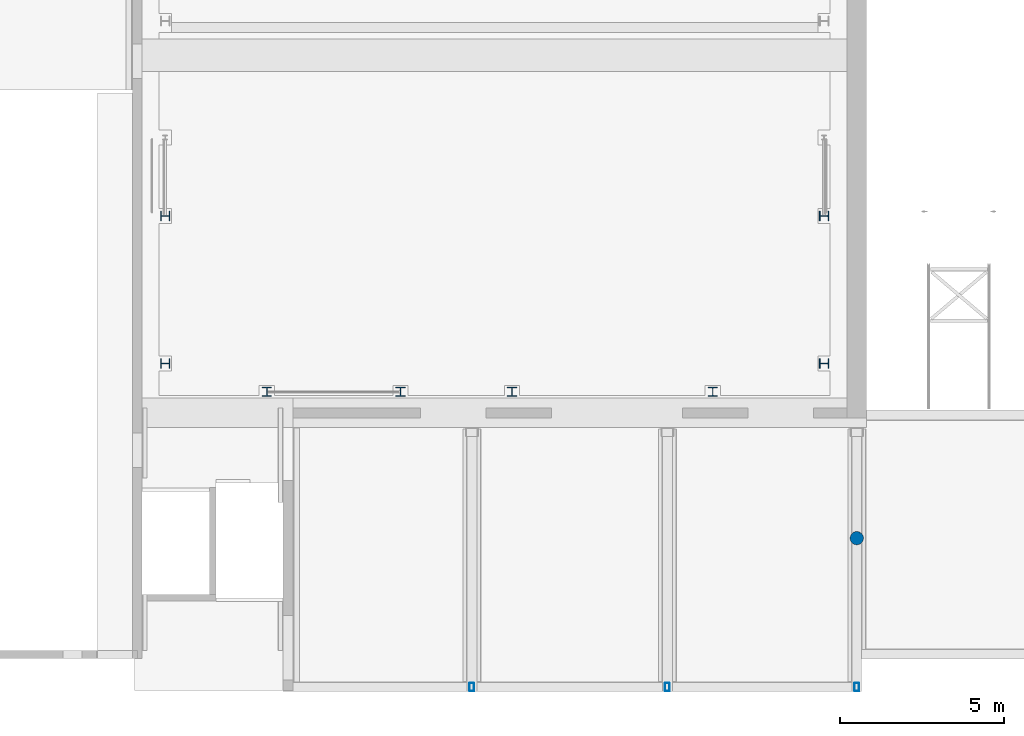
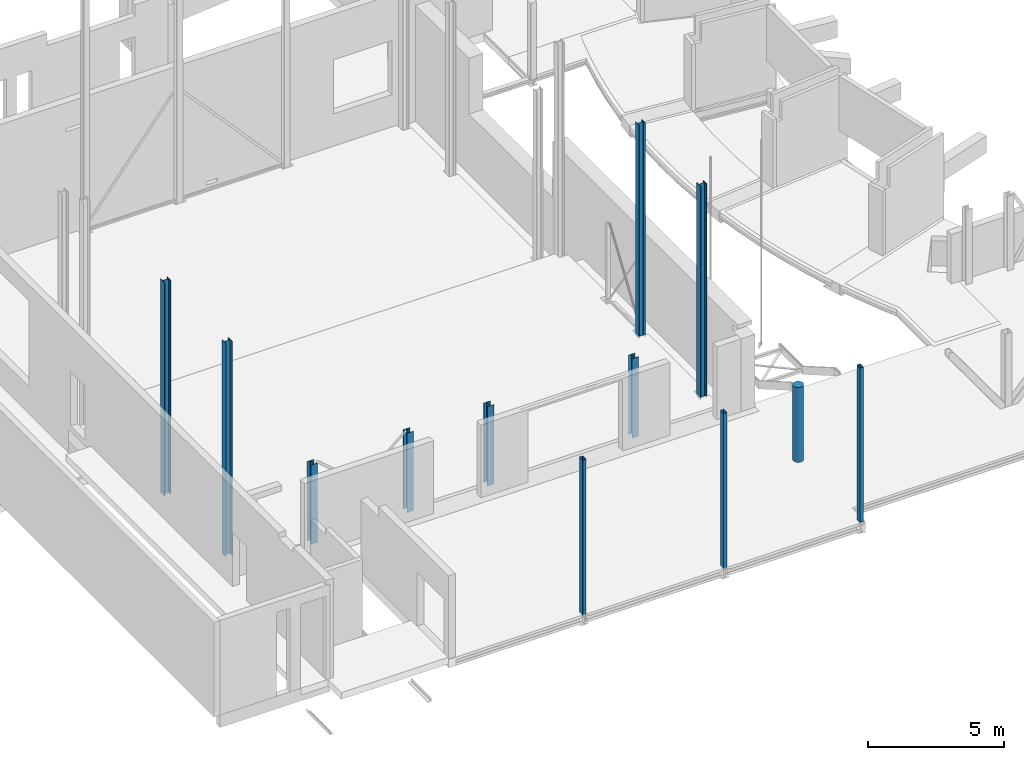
# One storey, part 1 of 37: 12 columns.
"""IFC2X3 building model written with IfcOpenShell, lengths in millimetres."""

from ifc_helpers import new_model, entity, si_unit, converted_unit, derived_unit, direction, frame, frame_2d, origin, place, context, subcontext, project, spatial, polyline, circle_curve, parameter, trimmed, segment, composite_curve, circle, hollow_circle, outline, extrude, source, transform, mapped, material, material_list, type_object, type_shapes, element, save


model = new_model("IFC2X3")

# Units and contexts
model_context = context("Model", 3, precision=0.01, world=origin(), true_north=direction((6.12303176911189e-17, 1.0)))
body_context = subcontext(model_context, "Body", "Model", "MODEL_VIEW")
ifc_project = project(units=[si_unit("LENGTHUNIT", "METRE", prefix="MILLI"), si_unit("AREAUNIT", "SQUARE_METRE", prefix="MILLI"), si_unit("VOLUMEUNIT", "CUBIC_METRE"), converted_unit("PLANEANGLEUNIT", "DEGREE", entity("IfcRatioMeasure", 0.0174532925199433), si_unit("PLANEANGLEUNIT", "RADIAN"), dimensions=[0, 0, 0, 0, 0, 0, 0]), si_unit("MASSUNIT", "GRAM", prefix="KILO"), derived_unit("MASSDENSITYUNIT", [(si_unit("MASSUNIT", "GRAM", prefix="KILO"), 1), (si_unit("LENGTHUNIT", "METRE"), -3)]), derived_unit("MOMENTOFINERTIAUNIT", [(si_unit("LENGTHUNIT", "METRE"), 4)]), si_unit("TIMEUNIT", "SECOND"), si_unit("FREQUENCYUNIT", "HERTZ"), si_unit("THERMODYNAMICTEMPERATUREUNIT", "DEGREE_CELSIUS"), derived_unit("THERMALTRANSMITTANCEUNIT", [(si_unit("MASSUNIT", "GRAM", prefix="KILO"), 1), (si_unit("THERMODYNAMICTEMPERATUREUNIT", "KELVIN"), -1), (si_unit("TIMEUNIT", "SECOND"), -3)]), derived_unit("VOLUMETRICFLOWRATEUNIT", [(si_unit("LENGTHUNIT", "METRE"), 3), (si_unit("TIMEUNIT", "SECOND"), -1)]), si_unit("ELECTRICCURRENTUNIT", "AMPERE"), si_unit("ELECTRICVOLTAGEUNIT", "VOLT"), si_unit("POWERUNIT", "WATT"), si_unit("FORCEUNIT", "NEWTON", prefix="KILO"), si_unit("ILLUMINANCEUNIT", "LUX"), si_unit("LUMINOUSFLUXUNIT", "LUMEN"), si_unit("LUMINOUSINTENSITYUNIT", "CANDELA"), derived_unit("USERDEFINED", [(si_unit("MASSUNIT", "GRAM", prefix="KILO"), -1), (si_unit("LENGTHUNIT", "METRE"), -2), (si_unit("TIMEUNIT", "SECOND"), 3), (si_unit("LUMINOUSFLUXUNIT", "LUMEN"), 1)]), derived_unit("LINEARVELOCITYUNIT", [(si_unit("LENGTHUNIT", "METRE"), 1), (si_unit("TIMEUNIT", "SECOND"), -1)]), si_unit("PRESSUREUNIT", "PASCAL"), derived_unit("USERDEFINED", [(si_unit("LENGTHUNIT", "METRE"), -2), (si_unit("MASSUNIT", "GRAM", prefix="KILO"), 1), (si_unit("TIMEUNIT", "SECOND"), -2)]), derived_unit("LINEARFORCEUNIT", [(si_unit("MASSUNIT", "GRAM", prefix="KILO"), 1), (si_unit("LENGTHUNIT", "METRE"), 1), (si_unit("TIMEUNIT", "SECOND"), -2), (si_unit("LENGTHUNIT", "METRE"), -1)]), derived_unit("PLANARFORCEUNIT", [(si_unit("MASSUNIT", "GRAM", prefix="KILO"), 1), (si_unit("LENGTHUNIT", "METRE"), 1), (si_unit("TIMEUNIT", "SECOND"), -2), (si_unit("LENGTHUNIT", "METRE"), -2)])], contexts=[model_context])

# Site, building, storey
site_placement = place(None, origin())
site = spatial("IfcSite", under=ifc_project, at=site_placement, Name="Theater aan de Parade", CompositionType="ELEMENT")
building_placement = place(site_placement, origin())
building = spatial("IfcBuilding", under=site, at=building_placement, Name="Theater aan de Parade", CompositionType="ELEMENT")
storey_placement = place(building_placement, frame((0.0, 0.0, 5020.0)))
storey = spatial("IfcBuildingStorey", under=building, at=storey_placement, Name="01 eerste verdieping", CompositionType="ELEMENT", Elevation=5020.0)

# Columns
ifc_material_1 = material(Name="00_PBT_MAT_staal_S355")
column_type_1 = type_object("IfcColumnType", Name="28_PBT_SC_staal_koker:S355_K250x150x10", PredefinedType="COLUMN", material=ifc_material_1)
shared_shape_1 = source(origin(), body_context, "Body", "SweptSolid", [
    extrude(outline(composite_curve([segment(trimmed(circle_curve(frame_2d((-60.0, -110.0), x_axis=(1.0, 0.0)), 15.0), [parameter(180.0)], [parameter(270.0)], True, "PARAMETER"), True, "CONTINUOUS"), segment(polyline([(-60.0, -125.0), (60.0, -125.0)]), True, "CONTINUOUS"), segment(trimmed(circle_curve(frame_2d((60.0, -110.0), x_axis=(1.0, 0.0)), 15.0), [parameter(270.0)], [parameter(0.0)], True, "PARAMETER"), True, "CONTINUOUS"), segment(polyline([(75.0, -110.0), (75.0, 110.0)]), True, "CONTINUOUS"), segment(trimmed(circle_curve(frame_2d((60.0, 110.0), x_axis=(1.0, 0.0)), 15.0), [parameter(3.56222124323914e-13)], [parameter(90.0000000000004)], True, "PARAMETER"), True, "CONTINUOUS"), segment(polyline([(60.0, 125.0), (-60.0, 125.0)]), True, "CONTINUOUS"), segment(trimmed(circle_curve(frame_2d((-60.0, 110.0), x_axis=(1.0, 0.0)), 15.0), [parameter(90.0)], [parameter(180.0)], True, "PARAMETER"), True, "CONTINUOUS"), segment(polyline([(-75.0, 110.0), (-75.0, -110.0)]), True, "CONTINUOUS")], self_intersect=False), holes=[composite_curve([segment(trimmed(circle_curve(frame_2d((55.0, 105.0), x_axis=(1.0, 0.0)), 10.0), [parameter(0.0)], [parameter(90.0000000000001)], True, "PARAMETER"), False, "CONTINUOUS"), segment(polyline([(65.0, 105.0), (65.0, -105.0)]), True, "CONTINUOUS"), segment(trimmed(circle_curve(frame_2d((55.0, -105.0), x_axis=(1.0, 0.0)), 10.0), [parameter(270.0)], [parameter(360.0)], True, "PARAMETER"), False, "CONTINUOUS"), segment(polyline([(55.0, -115.0), (-55.0, -115.0)]), True, "CONTINUOUS"), segment(trimmed(circle_curve(frame_2d((-55.0, -105.0), x_axis=(1.0, 0.0)), 10.0), [parameter(180.0)], [parameter(270.0)], True, "PARAMETER"), False, "CONTINUOUS"), segment(polyline([(-65.0, -105.0), (-65.0, 105.0)]), True, "CONTINUOUS"), segment(trimmed(circle_curve(frame_2d((-55.0, 105.0), x_axis=(1.0, 0.0)), 10.0), [parameter(89.9999999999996)], [parameter(180.0)], True, "PARAMETER"), False, "CONTINUOUS"), segment(polyline([(-55.0, 115.0), (55.0, 115.0)]), True, "CONTINUOUS")], self_intersect=False)]), frame((25410.0, 9197.0, 4895.0), z_axis=(0.0, 0.0, 1.0), x_axis=(-1.0, 0.0, 0.0)), (0.0, 0.0, 1.0), 6965.0),
])
type_shapes(column_type_1, [shared_shape_1])
column_1_placement = place(storey_placement, frame((0.0, 0.0, -5020.0)))
element("IfcColumn", 1, at=column_1_placement, inside=storey, type_object=column_type_1, material=ifc_material_1, Name="28_PBT_SC_staal_koker:S355_K250x150x10", ObjectType="28_PBT_SC_staal_koker:S355_K250x150x10", context=body_context, shape_type="MappedRepresentation", body=[
    mapped(shared_shape_1, transform((0.0, 0.0, 0.0), scale=1.0)),
])
column_type_2 = type_object("IfcColumnType", Name="28_PBT_SC_staal_koker:S355_K250x150x10", PredefinedType="COLUMN", material=ifc_material_1)
shared_shape_2 = source(origin(), body_context, "Body", "SweptSolid", [
    extrude(outline(composite_curve([segment(trimmed(circle_curve(frame_2d((-60.0, -110.0), x_axis=(1.0, 0.0)), 15.0), [parameter(180.0)], [parameter(270.0)], True, "PARAMETER"), True, "CONTINUOUS"), segment(polyline([(-60.0, -125.0), (60.0, -125.0)]), True, "CONTINUOUS"), segment(trimmed(circle_curve(frame_2d((60.0, -110.0), x_axis=(1.0, 0.0)), 15.0), [parameter(270.0)], [parameter(0.0)], True, "PARAMETER"), True, "CONTINUOUS"), segment(polyline([(75.0, -110.0), (75.0, 110.0)]), True, "CONTINUOUS"), segment(trimmed(circle_curve(frame_2d((60.0, 110.0), x_axis=(1.0, 0.0)), 15.0), [parameter(3.56222124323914e-13)], [parameter(90.0000000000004)], True, "PARAMETER"), True, "CONTINUOUS"), segment(polyline([(60.0, 125.0), (-60.0, 125.0)]), True, "CONTINUOUS"), segment(trimmed(circle_curve(frame_2d((-60.0, 110.0), x_axis=(1.0, 0.0)), 15.0), [parameter(90.0)], [parameter(180.0)], True, "PARAMETER"), True, "CONTINUOUS"), segment(polyline([(-75.0, 110.0), (-75.0, -110.0)]), True, "CONTINUOUS")], self_intersect=False), holes=[composite_curve([segment(trimmed(circle_curve(frame_2d((55.0, 105.0), x_axis=(1.0, 0.0)), 10.0), [parameter(0.0)], [parameter(90.0000000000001)], True, "PARAMETER"), False, "CONTINUOUS"), segment(polyline([(65.0, 105.0), (65.0, -105.0)]), True, "CONTINUOUS"), segment(trimmed(circle_curve(frame_2d((55.0, -105.0), x_axis=(1.0, 0.0)), 10.0), [parameter(270.0)], [parameter(360.0)], True, "PARAMETER"), False, "CONTINUOUS"), segment(polyline([(55.0, -115.0), (-55.0, -115.0)]), True, "CONTINUOUS"), segment(trimmed(circle_curve(frame_2d((-55.0, -105.0), x_axis=(1.0, 0.0)), 10.0), [parameter(180.0)], [parameter(270.0)], True, "PARAMETER"), False, "CONTINUOUS"), segment(polyline([(-65.0, -105.0), (-65.0, 105.0)]), True, "CONTINUOUS"), segment(trimmed(circle_curve(frame_2d((-55.0, 105.0), x_axis=(1.0, 0.0)), 10.0), [parameter(89.9999999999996)], [parameter(180.0)], True, "PARAMETER"), False, "CONTINUOUS"), segment(polyline([(-55.0, 115.0), (55.0, 115.0)]), True, "CONTINUOUS")], self_intersect=False)]), frame((31375.0, 9197.0, 4895.0), z_axis=(0.0, 0.0, 1.0), x_axis=(-1.0, 0.0, 0.0)), (0.0, 0.0, 1.0), 6965.0),
])
type_shapes(column_type_2, [shared_shape_2])
column_2_placement = place(storey_placement, frame((0.0, 0.0, -5020.0)))
element("IfcColumn", 2, at=column_2_placement, inside=storey, type_object=column_type_2, material=ifc_material_1, Name="28_PBT_SC_staal_koker:S355_K250x150x10", ObjectType="28_PBT_SC_staal_koker:S355_K250x150x10", context=body_context, shape_type="MappedRepresentation", body=[
    mapped(shared_shape_2, transform((0.0, 0.0, 0.0), scale=1.0)),
])
column_type_3 = type_object("IfcColumnType", Name="28_PBT_SC_staal_koker:S355_K250x150x10", PredefinedType="COLUMN", material=ifc_material_1)
shared_shape_3 = source(origin(), body_context, "Body", "SweptSolid", [
    extrude(outline(composite_curve([segment(trimmed(circle_curve(frame_2d((-60.0, -110.0), x_axis=(1.0, 0.0)), 15.0), [parameter(180.0)], [parameter(270.0)], True, "PARAMETER"), True, "CONTINUOUS"), segment(polyline([(-60.0, -125.0), (60.0, -125.0)]), True, "CONTINUOUS"), segment(trimmed(circle_curve(frame_2d((60.0, -110.0), x_axis=(1.0, 0.0)), 15.0), [parameter(270.0)], [parameter(0.0)], True, "PARAMETER"), True, "CONTINUOUS"), segment(polyline([(75.0, -110.0), (75.0, 110.0)]), True, "CONTINUOUS"), segment(trimmed(circle_curve(frame_2d((60.0, 110.0), x_axis=(1.0, 0.0)), 15.0), [parameter(3.56222124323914e-13)], [parameter(90.0000000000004)], True, "PARAMETER"), True, "CONTINUOUS"), segment(polyline([(60.0, 125.0), (-60.0, 125.0)]), True, "CONTINUOUS"), segment(trimmed(circle_curve(frame_2d((-60.0, 110.0), x_axis=(1.0, 0.0)), 15.0), [parameter(90.0)], [parameter(180.0)], True, "PARAMETER"), True, "CONTINUOUS"), segment(polyline([(-75.0, 110.0), (-75.0, -110.0)]), True, "CONTINUOUS")], self_intersect=False), holes=[composite_curve([segment(trimmed(circle_curve(frame_2d((55.0, 105.0), x_axis=(1.0, 0.0)), 10.0), [parameter(0.0)], [parameter(90.0000000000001)], True, "PARAMETER"), False, "CONTINUOUS"), segment(polyline([(65.0, 105.0), (65.0, -105.0)]), True, "CONTINUOUS"), segment(trimmed(circle_curve(frame_2d((55.0, -105.0), x_axis=(1.0, 0.0)), 10.0), [parameter(270.0)], [parameter(360.0)], True, "PARAMETER"), False, "CONTINUOUS"), segment(polyline([(55.0, -115.0), (-55.0, -115.0)]), True, "CONTINUOUS"), segment(trimmed(circle_curve(frame_2d((-55.0, -105.0), x_axis=(1.0, 0.0)), 10.0), [parameter(180.0)], [parameter(270.0)], True, "PARAMETER"), False, "CONTINUOUS"), segment(polyline([(-65.0, -105.0), (-65.0, 105.0)]), True, "CONTINUOUS"), segment(trimmed(circle_curve(frame_2d((-55.0, 105.0), x_axis=(1.0, 0.0)), 10.0), [parameter(89.9999999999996)], [parameter(180.0)], True, "PARAMETER"), False, "CONTINUOUS"), segment(polyline([(-55.0, 115.0), (55.0, 115.0)]), True, "CONTINUOUS")], self_intersect=False)]), frame((37153.8581300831, 9197.0, 4960.0), z_axis=(0.0, 0.0, 1.0), x_axis=(-1.0, 0.0, 0.0)), (0.0, 0.0, 1.0), 6915.0),
])
type_shapes(column_type_3, [shared_shape_3])
column_3_placement = place(storey_placement, frame((0.0, 0.0, -5020.0)))
element("IfcColumn", 3, at=column_3_placement, inside=storey, type_object=column_type_3, material=ifc_material_1, Name="28_PBT_SC_staal_koker:S355_K250x150x10", ObjectType="28_PBT_SC_staal_koker:S355_K250x150x10", context=body_context, shape_type="MappedRepresentation", body=[
    mapped(shared_shape_3, transform((0.0, 0.0, 0.0), scale=1.0)),
])
ifc_material_2 = material(Name="00_PBT_MAT_beton t.p.g._C40/50")
ifc_material_list_1 = material_list([ifc_material_1, ifc_material_2])
ifc_material_list_2 = material_list([ifc_material_1, ifc_material_2])
column_type_4 = type_object("IfcColumnType", Name="28_PBT_SC_staal_buis:S355_B406.4x20_GB_C40/50", PredefinedType="COLUMN", material=ifc_material_list_2)
shared_shape_4 = source(origin(), body_context, "Body", "SweptSolid", [
    extrude(hollow_circle(Radius=203.2, WallThickness=20.0, at=frame_2d((1.77837538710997e-15, -3.28302470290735e-13), x_axis=(1.0, 0.0))), frame((0.0, 0.0, 4925.0), z_axis=(0.0, 0.0, 1.0), x_axis=(-1.0, 0.0, 0.0)), (0.0, 0.0, 1.0), 3365.0),
    extrude(circle(Radius=183.2, at=frame_2d((-6.17986865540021e-15, 1.51632491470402e-12), x_axis=(1.0, 0.0))), frame((0.0, 0.0, 4925.0)), (0.0, 0.0, 1.0), 3365.0),
])
type_shapes(column_type_4, [shared_shape_4])
column_4_placement = place(storey_placement, frame((37153.8581300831, 13740.3177017, -5020.0)))
element("IfcColumn", 4, at=column_4_placement, inside=storey, type_object=column_type_4, material=ifc_material_list_1, Name="28_PBT_SC_staal_buis:S355_B406.4x20_GB_C40/50", ObjectType="28_PBT_SC_staal_buis:S355_B406.4x20_GB_C40/50", context=body_context, shape_type="MappedRepresentation", body=[
    mapped(shared_shape_4, transform((0.0, 0.0, 0.0), scale=1.0)),
])
column_type_5 = type_object("IfcColumnType", Name="28_PBT_SC_staal_H-profiel:S355_HE280B", PredefinedType="COLUMN", material=ifc_material_1)
shared_shape_5 = source(origin(), body_context, "Body", "SweptSolid", [
    extrude(outline(composite_curve([segment(polyline([(122.0, -140.0), (140.0, -140.0)]), True, "CONTINUOUS"), segment(polyline([(140.0, -140.0), (140.0, 140.0)]), True, "CONTINUOUS"), segment(polyline([(140.0, 140.0), (122.0, 140.0)]), True, "CONTINUOUS"), segment(polyline([(122.0, 140.0), (122.0, 29.25)]), True, "CONTINUOUS"), segment(trimmed(circle_curve(frame_2d((98.0, 29.25), x_axis=(1.0, 0.0)), 23.9999999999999), [parameter(269.999999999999)], [parameter(0.0)], True, "PARAMETER"), False, "CONTINUOUS"), segment(polyline([(98.0, 5.25000000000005), (-98.0, 5.25)]), True, "CONTINUOUS"), segment(trimmed(circle_curve(frame_2d((-98.0, 29.25), x_axis=(0.0, -1.0)), 24.0), [parameter(270.0)], [parameter(0.0)], True, "PARAMETER"), False, "CONTINUOUS"), segment(polyline([(-122.0, 29.2499999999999), (-122.0, 140.0)]), True, "CONTINUOUS"), segment(polyline([(-122.0, 140.0), (-140.0, 140.0)]), True, "CONTINUOUS"), segment(polyline([(-140.0, 140.0), (-140.0, -140.0)]), True, "CONTINUOUS"), segment(polyline([(-140.0, -140.0), (-122.0, -140.0)]), True, "CONTINUOUS"), segment(polyline([(-122.0, -140.0), (-122.0, -29.2500000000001)]), True, "CONTINUOUS"), segment(trimmed(circle_curve(frame_2d((-98.0, -29.25), x_axis=(-1.0, 0.0)), 24.0), [parameter(270.0)], [parameter(0.0)], True, "PARAMETER"), False, "CONTINUOUS"), segment(polyline([(-98.0, -5.25), (98.0, -5.24999999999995)]), True, "CONTINUOUS"), segment(trimmed(circle_curve(frame_2d((98.0, -29.2499999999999), x_axis=(0.0, 1.0)), 23.9999999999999), [parameter(270.0)], [parameter(0.0)], True, "PARAMETER"), False, "CONTINUOUS"), segment(polyline([(122.0, -29.25), (122.0, -140.0)]), True, "CONTINUOUS")], self_intersect=False)), frame((0.0, 0.0, 4845.0), z_axis=(0.0, 0.0, 1.0), x_axis=(0.0, -1.0, 0.0)), (0.0, 0.0, 1.0), 9565.0),
])
type_shapes(column_type_5, [shared_shape_5])
for number, where, z_axis, x_axis in (
    (5, (16053.8570032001, 23568.2922985, -5020.0), (0.0, 0.0, 1.0), (0.0, 1.0, 0.0)),
    (6, (36153.8581300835, 23568.2922984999, -5020.0), (0.0, 0.0, 1.0), (0.0, 1.0, 0.0)),
    (7, (16053.8570032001, 19068.2922985, -5020.0), (0.0, 0.0, 1.0), (0.0, 1.0, 0.0)),
    (8, (36153.8581300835, 19068.2922984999, -5020.0), (0.0, 0.0, 1.0), (0.0, 1.0, 0.0)),
):
    element("IfcColumn", number, at=place(storey_placement, frame(where, z_axis=z_axis, x_axis=x_axis)), inside=storey, type_object=column_type_5, material=ifc_material_1, Name="28_PBT_SC_staal_H-profiel:S355_HE280B", ObjectType="28_PBT_SC_staal_H-profiel:S355_HE280B", context=body_context, shape_type="MappedRepresentation", body=[
        mapped(shared_shape_5, transform((0.0, 0.0, 0.0), scale=1.0)),
    ])
column_type_6 = type_object("IfcColumnType", Name="28_PBT_SC_staal_H-profiel:S355_HE280B", PredefinedType="COLUMN", material=ifc_material_1)
shared_shape_6 = source(origin(), body_context, "Body", "SweptSolid", [
    extrude(outline(composite_curve([segment(polyline([(122.0, -140.0), (140.0, -140.0)]), True, "CONTINUOUS"), segment(polyline([(140.0, -140.0), (140.0, 140.0)]), True, "CONTINUOUS"), segment(polyline([(140.0, 140.0), (122.0, 140.0)]), True, "CONTINUOUS"), segment(polyline([(122.0, 140.0), (122.0, 29.25)]), True, "CONTINUOUS"), segment(trimmed(circle_curve(frame_2d((98.0, 29.25), x_axis=(1.0, 0.0)), 23.9999999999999), [parameter(269.999999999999)], [parameter(0.0)], True, "PARAMETER"), False, "CONTINUOUS"), segment(polyline([(98.0, 5.25000000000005), (-98.0, 5.25)]), True, "CONTINUOUS"), segment(trimmed(circle_curve(frame_2d((-98.0, 29.25), x_axis=(0.0, -1.0)), 24.0), [parameter(270.0)], [parameter(0.0)], True, "PARAMETER"), False, "CONTINUOUS"), segment(polyline([(-122.0, 29.2499999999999), (-122.0, 140.0)]), True, "CONTINUOUS"), segment(polyline([(-122.0, 140.0), (-140.0, 140.0)]), True, "CONTINUOUS"), segment(polyline([(-140.0, 140.0), (-140.0, -140.0)]), True, "CONTINUOUS"), segment(polyline([(-140.0, -140.0), (-122.0, -140.0)]), True, "CONTINUOUS"), segment(polyline([(-122.0, -140.0), (-122.0, -29.2500000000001)]), True, "CONTINUOUS"), segment(trimmed(circle_curve(frame_2d((-98.0, -29.25), x_axis=(-1.0, 0.0)), 24.0), [parameter(270.0)], [parameter(0.0)], True, "PARAMETER"), False, "CONTINUOUS"), segment(polyline([(-98.0, -5.25), (98.0, -5.24999999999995)]), True, "CONTINUOUS"), segment(trimmed(circle_curve(frame_2d((98.0, -29.2499999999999), x_axis=(0.0, 1.0)), 23.9999999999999), [parameter(270.0)], [parameter(0.0)], True, "PARAMETER"), False, "CONTINUOUS"), segment(polyline([(122.0, -29.25), (122.0, -140.0)]), True, "CONTINUOUS")], self_intersect=False)), frame((0.0, 0.0, 4845.0), z_axis=(0.0, 0.0, 1.0), x_axis=(0.0, -1.0, 0.0)), (0.0, 0.0, 1.0), 3545.0),
])
type_shapes(column_type_6, [shared_shape_6])
for number, where, z_axis, x_axis in (
    (9, (19156.8570058, 18206.305865, -5020.0), (0.0, 0.0, 1.0), (-1.0, 0.0, 0.0)),
    (10, (26635.3581839, 18206.305865, -5020.0), (0.0, 0.0, 1.0), (-1.0, 0.0, 0.0)),
    (11, (32760.358192, 18206.305865, -5020.0), (0.0, 0.0, 1.0), (-1.0, 0.0, 0.0)),
    (12, (23232.8581798, 18206.305865, -5020.0), (0.0, 0.0, 1.0), (-1.0, 0.0, 0.0)),
):
    element("IfcColumn", number, at=place(storey_placement, frame(where, z_axis=z_axis, x_axis=x_axis)), inside=storey, type_object=column_type_6, material=ifc_material_1, Name="28_PBT_SC_staal_H-profiel:S355_HE280B", ObjectType="28_PBT_SC_staal_H-profiel:S355_HE280B", context=body_context, shape_type="MappedRepresentation", body=[
        mapped(shared_shape_6, transform((0.0, 0.0, 0.0), scale=1.0)),
    ])

save(model, "model.ifc")
